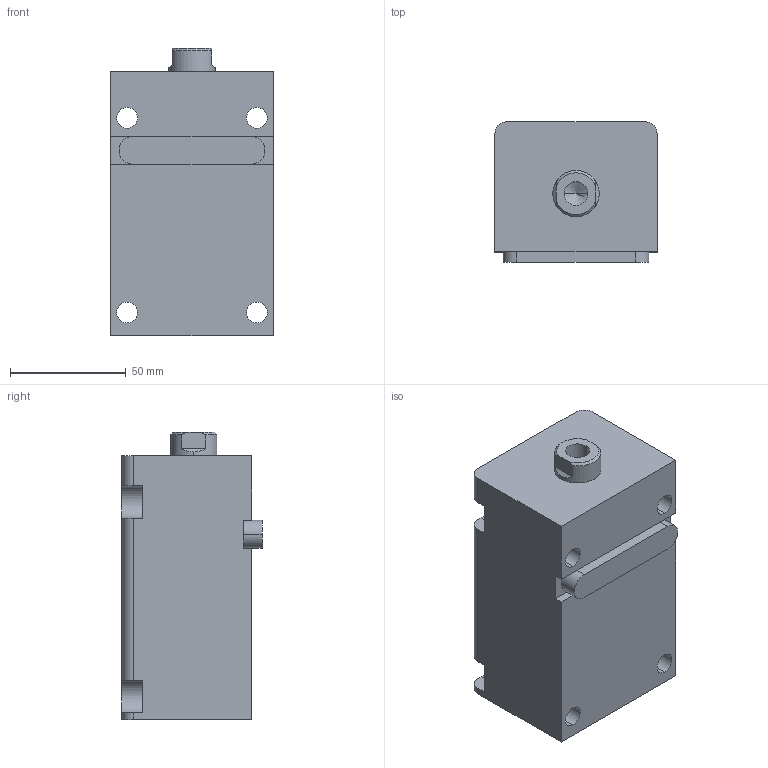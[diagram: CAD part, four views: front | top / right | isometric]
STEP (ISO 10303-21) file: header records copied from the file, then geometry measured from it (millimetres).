
FILE_DESCRIPTION (( 'STEP AP203' ), '1' );
FILE_NAME ('HTB-LA32-60N.STEP', '2019-10-09T06:29:11', ( '微软用户' ), ( '微软中国' ), 'SwSTEP 2.0', 'SolidWorks 2012', '' );
FILE_SCHEMA (( 'CONFIG_CONTROL_DESIGN' ));
Length unit declared in the file: millimetre
Products named in the file (4): HTB-LA32-60N活塞杆; HTB-LA32-瑩; HTB-LA32-60N; HTB-LA32-60掛极
Assembly tree (3 placements, depth 2):
  HTB-LA32-60N
    HTB-LA32-60掛极
    HTB-LA32-60N活塞杆
    HTB-LA32-瑩
Bounding box: 70 x 60.5 x 124 mm (x, y, z)
Volume: 400798.6 mm3; surface area: 65663.9 mm2
Topology: 3 solids, 3 shells, 88 faces, 217 edges, 141 vertices
Faces by surface type: plane 39, cylinder 35, cone 8, torus 6
Entity records: 3053 total; most frequent: DIRECTION 487, CARTESIAN_POINT 478, ORIENTED_EDGE 430, EDGE_CURVE 215, AXIS2_PLACEMENT_3D 186, VERTEX_POINT 141, LINE 115, VECTOR 115
